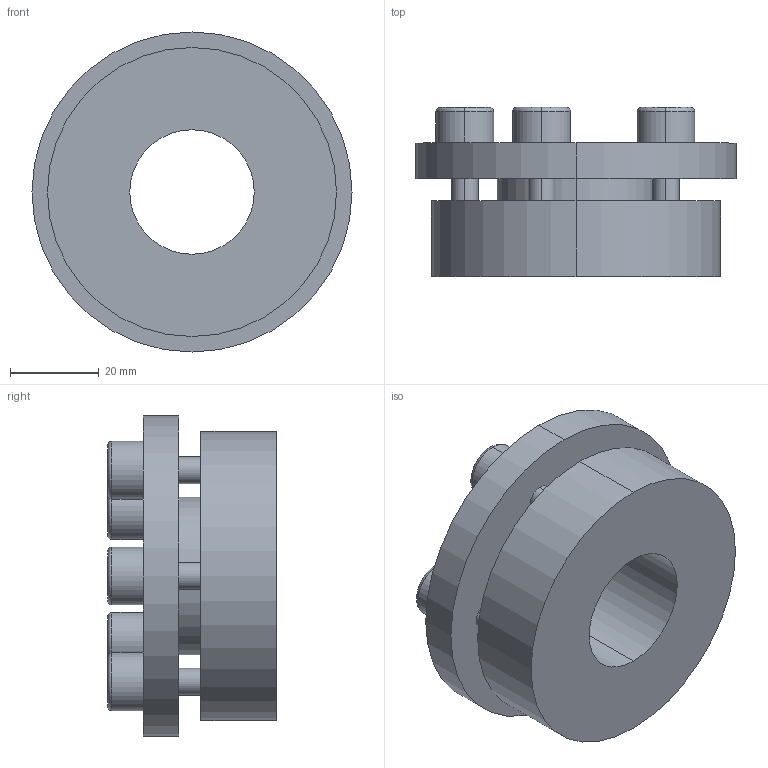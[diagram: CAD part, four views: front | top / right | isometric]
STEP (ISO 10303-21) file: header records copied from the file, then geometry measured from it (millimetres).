
FILE_DESCRIPTION (( 'STEP AP203' ), '1' );
FILE_NAME ('PL-H4 28-65.STEP', '2021-10-23T01:19:36', ( '' ), ( '' ), 'SwSTEP 2.0', 'SolidWorks 2018', '' );
FILE_SCHEMA (( 'CONFIG_CONTROL_DESIGN' ));
Length unit declared in the file: millimetre
Products named in the file (1): PL-H4 28-65
Bounding box: 72 x 38 x 72 mm (x, y, z)
Volume: 80782.1 mm3; surface area: 22203.6 mm2
Topology: 1 solids, 1 shells, 82 faces, 194 edges, 126 vertices
Faces by surface type: plane 44, cylinder 28, torus 10
Entity records: 2475 total; most frequent: DIRECTION 436, CARTESIAN_POINT 403, ORIENTED_EDGE 388, EDGE_CURVE 194, AXIS2_PLACEMENT_3D 159, VERTEX_POINT 126, VECTOR 118, LINE 118
